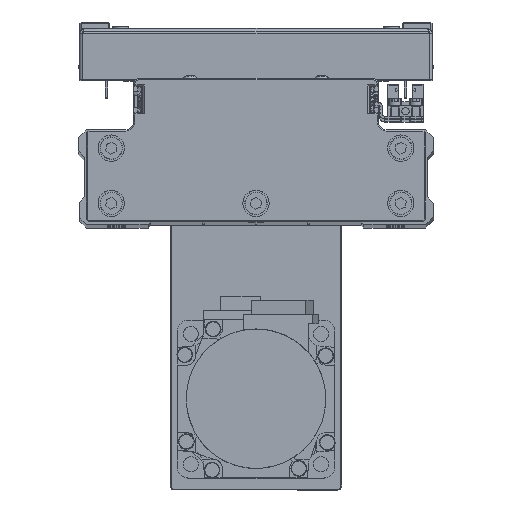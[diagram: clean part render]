
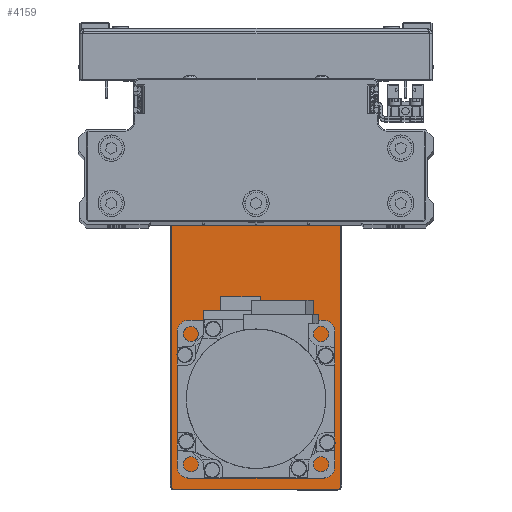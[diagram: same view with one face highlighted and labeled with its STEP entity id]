
A CAD part, top view. The second image highlights one B-rep face of the part: STEP entity #4159.
In plain terms, the highlighted planar face has unit normal (0, 0, 1) as drawn and (0, 1, 0) by its records, which use the part's own axes.
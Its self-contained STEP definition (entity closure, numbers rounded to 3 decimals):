
#203 = AXIS2_PLACEMENT_3D ( 'NONE', #10018, #23656, #37335 ) ;
#590 = FACE_BOUND ( 'NONE', #42842, .T. ) ;
#809 = ORIENTED_EDGE ( 'NONE', *, *, #30863, .T. ) ;
#1268 = CARTESIAN_POINT ( 'NONE',  ( -84.7, 6., 0. ) ) ;
#1620 = AXIS2_PLACEMENT_3D ( 'NONE', #24550, #38217, #7558 ) ;
#1748 = EDGE_LOOP ( 'NONE', ( #25044, #38263 ) ) ;
#1940 = EDGE_CURVE ( 'NONE', #26583, #33421, #26943, .T. ) ;
#3515 = EDGE_CURVE ( 'NONE', #20765, #15574, #15768, .T. ) ;
#3806 = DIRECTION ( 'NONE',  ( -1., 0., 0. ) ) ;
#4159 = ADVANCED_FACE ( 'NONE', ( #17593, #31243, #590, #14210, #27857 ), #41519, .F. ) ;
#4186 = CARTESIAN_POINT ( 'NONE',  ( 52.5, 6., -10.3 ) ) ;
#4367 = CARTESIAN_POINT ( 'NONE',  ( -50.5, 6., -15. ) ) ;
#5638 = DIRECTION ( 'NONE',  ( 0., -1., 0. ) ) ;
#5685 = CARTESIAN_POINT ( 'NONE',  ( 83.5, 6., 32.2 ) ) ;
#7052 = VECTOR ( 'NONE', #34766, 1000. ) ;
#7235 = CARTESIAN_POINT ( 'NONE',  ( 75.992, 6., -8.551 ) ) ;
#7450 = CARTESIAN_POINT ( 'NONE',  ( -50.5, 6., 15. ) ) ;
#7490 = LINE ( 'NONE', #21120, #7052 ) ;
#7558 = DIRECTION ( 'NONE',  ( 0., 0., 1. ) ) ;
#7660 = AXIS2_PLACEMENT_3D ( 'NONE', #25127, #38811, #8158 ) ;
#8004 = DIRECTION ( 'NONE',  ( 0., 0., -1. ) ) ;
#8085 = VERTEX_POINT ( 'NONE', #15971 ) ;
#8158 = DIRECTION ( 'NONE',  ( 0., 0., 1. ) ) ;
#8338 = DIRECTION ( 'NONE',  ( 0., 0., -1. ) ) ;
#8340 = DIRECTION ( 'NONE',  ( 0., 0., 1. ) ) ;
#8342 = ORIENTED_EDGE ( 'NONE', *, *, #42377, .T. ) ;
#8436 = CARTESIAN_POINT ( 'NONE',  ( 61.051, 6., 21.967 ) ) ;
#9050 = EDGE_CURVE ( 'NONE', #39495, #41963, #19495, .T. ) ;
#9067 = DIRECTION ( 'NONE',  ( 0., 0., 1. ) ) ;
#9975 = CARTESIAN_POINT ( 'NONE',  ( -83.5, 6., 31. ) ) ;
#10018 = CARTESIAN_POINT ( 'NONE',  ( -50.5, 6., 0. ) ) ;
#10165 = VECTOR ( 'NONE', #14906, 1000. ) ;
#10871 = CARTESIAN_POINT ( 'NONE',  ( 0., 6., 0. ) ) ;
#11038 = DIRECTION ( 'NONE',  ( 0., 0., -1. ) ) ;
#11071 = CARTESIAN_POINT ( 'NONE',  ( 83.5, 6., -31. ) ) ;
#11317 = ORIENTED_EDGE ( 'NONE', *, *, #32674, .F. ) ;
#11723 = CARTESIAN_POINT ( 'NONE',  ( 0., 6., 32.2 ) ) ;
#12030 = VERTEX_POINT ( 'NONE', #34632 ) ;
#12055 = ORIENTED_EDGE ( 'NONE', *, *, #37808, .T. ) ;
#14210 = FACE_OUTER_BOUND ( 'NONE', #18404, .T. ) ;
#14321 = AXIS2_PLACEMENT_3D ( 'NONE', #25322, #38993, #8338 ) ;
#14906 = DIRECTION ( 'NONE',  ( 0., 0., 1. ) ) ;
#14986 = VERTEX_POINT ( 'NONE', #31381 ) ;
#15088 = AXIS2_PLACEMENT_3D ( 'NONE', #10871, #24509, #38189 ) ;
#15148 = ORIENTED_EDGE ( 'NONE', *, *, #3515, .F. ) ;
#15214 = CARTESIAN_POINT ( 'NONE',  ( 75.992, 6., -7.026 ) ) ;
#15574 = VERTEX_POINT ( 'NONE', #15214 ) ;
#15768 = CIRCLE ( 'NONE', #40787, 1.525 ) ;
#15971 = CARTESIAN_POINT ( 'NONE',  ( -83.5, 6., -32.2 ) ) ;
#16020 = EDGE_CURVE ( 'NONE', #33421, #26583, #18179, .T. ) ;
#16150 = EDGE_LOOP ( 'NONE', ( #11317, #15148 ) ) ;
#16496 = EDGE_CURVE ( 'NONE', #30525, #25093, #41068, .T. ) ;
#17593 = FACE_BOUND ( 'NONE', #1748, .T. ) ;
#17741 = CARTESIAN_POINT ( 'NONE',  ( -83.5, 6., -31. ) ) ;
#17918 = ORIENTED_EDGE ( 'NONE', *, *, #37869, .T. ) ;
#18179 = CIRCLE ( 'NONE', #43186, 1.525 ) ;
#18404 = EDGE_LOOP ( 'NONE', ( #12055, #27605, #8342, #38157, #809, #17918, #24952, #38240 ) ) ;
#18763 = AXIS2_PLACEMENT_3D ( 'NONE', #9975, #23605, #37281 ) ;
#19285 = DIRECTION ( 'NONE',  ( 0., 0., -1. ) ) ;
#19495 = CIRCLE ( 'NONE', #203, 15. ) ;
#20271 = CARTESIAN_POINT ( 'NONE',  ( -84.7, 6., -31. ) ) ;
#20765 = VERTEX_POINT ( 'NONE', #21949 ) ;
#20798 = LINE ( 'NONE', #34445, #29411 ) ;
#20872 = DIRECTION ( 'NONE',  ( 0., 1., 0. ) ) ;
#20906 = CIRCLE ( 'NONE', #1620, 15. ) ;
#21120 = CARTESIAN_POINT ( 'NONE',  ( 84.7, 6., 0. ) ) ;
#21232 = AXIS2_PLACEMENT_3D ( 'NONE', #24980, #38651, #8004 ) ;
#21641 = CARTESIAN_POINT ( 'NONE',  ( 61.051, 6., 25.017 ) ) ;
#21775 = AXIS2_PLACEMENT_3D ( 'NONE', #36292, #5638, #19285 ) ;
#21868 = ORIENTED_EDGE ( 'NONE', *, *, #16496, .T. ) ;
#21949 = CARTESIAN_POINT ( 'NONE',  ( 75.992, 6., -10.076 ) ) ;
#22111 = AXIS2_PLACEMENT_3D ( 'NONE', #11071, #24701, #38375 ) ;
#23605 = DIRECTION ( 'NONE',  ( 0., 1., 0. ) ) ;
#23656 = DIRECTION ( 'NONE',  ( 0., 1., 0. ) ) ;
#23851 = VERTEX_POINT ( 'NONE', #20271 ) ;
#24047 = AXIS2_PLACEMENT_3D ( 'NONE', #25325, #38999, #8340 ) ;
#24509 = DIRECTION ( 'NONE',  ( 0., -1., 0. ) ) ;
#24550 = CARTESIAN_POINT ( 'NONE',  ( -50.5, 6., 0. ) ) ;
#24701 = DIRECTION ( 'NONE',  ( 0., 1., 0. ) ) ;
#24841 = VERTEX_POINT ( 'NONE', #39758 ) ;
#24952 = ORIENTED_EDGE ( 'NONE', *, *, #33418, .T. ) ;
#24980 = CARTESIAN_POINT ( 'NONE',  ( 83.5, 6., 31. ) ) ;
#25044 = ORIENTED_EDGE ( 'NONE', *, *, #16020, .F. ) ;
#25093 = VERTEX_POINT ( 'NONE', #40249 ) ;
#25121 = VERTEX_POINT ( 'NONE', #30171 ) ;
#25127 = CARTESIAN_POINT ( 'NONE',  ( 61.051, 6., 23.492 ) ) ;
#25148 = AXIS2_PLACEMENT_3D ( 'NONE', #17741, #41691, #11038 ) ;
#25322 = CARTESIAN_POINT ( 'NONE',  ( 52.5, 6., 0. ) ) ;
#25325 = CARTESIAN_POINT ( 'NONE',  ( 75.992, 6., -8.551 ) ) ;
#25360 = DIRECTION ( 'NONE',  ( 1., 0., 0. ) ) ;
#25682 = VECTOR ( 'NONE', #25360, 1000. ) ;
#26053 = CARTESIAN_POINT ( 'NONE',  ( 61.051, 6., 23.492 ) ) ;
#26583 = VERTEX_POINT ( 'NONE', #8436 ) ;
#26931 = CARTESIAN_POINT ( 'NONE',  ( 84.7, 6., 31. ) ) ;
#26943 = CIRCLE ( 'NONE', #7660, 1.525 ) ;
#27605 = ORIENTED_EDGE ( 'NONE', *, *, #30060, .T. ) ;
#27704 = EDGE_CURVE ( 'NONE', #41963, #39495, #20906, .T. ) ;
#27857 = FACE_BOUND ( 'NONE', #36205, .T. ) ;
#28723 = ORIENTED_EDGE ( 'NONE', *, *, #40742, .T. ) ;
#29411 = VECTOR ( 'NONE', #3806, 1000. ) ;
#30060 = EDGE_CURVE ( 'NONE', #25121, #8085, #20798, .T. ) ;
#30171 = CARTESIAN_POINT ( 'NONE',  ( 83.5, 6., -32.2 ) ) ;
#30525 = VERTEX_POINT ( 'NONE', #4186 ) ;
#30617 = EDGE_CURVE ( 'NONE', #23851, #12030, #31935, .T. ) ;
#30863 = EDGE_CURVE ( 'NONE', #12030, #24841, #38053, .T. ) ;
#31042 = ORIENTED_EDGE ( 'NONE', *, *, #9050, .F. ) ;
#31243 = FACE_BOUND ( 'NONE', #16150, .T. ) ;
#31381 = CARTESIAN_POINT ( 'NONE',  ( 84.7, 6., -31. ) ) ;
#31935 = LINE ( 'NONE', #1268, #10165 ) ;
#32172 = ORIENTED_EDGE ( 'NONE', *, *, #27704, .F. ) ;
#32674 = EDGE_CURVE ( 'NONE', #15574, #20765, #43352, .T. ) ;
#33418 = EDGE_CURVE ( 'NONE', #35142, #34106, #40554, .T. ) ;
#33421 = VERTEX_POINT ( 'NONE', #21641 ) ;
#33623 = CIRCLE ( 'NONE', #14321, 10.3 ) ;
#34106 = VERTEX_POINT ( 'NONE', #26931 ) ;
#34445 = CARTESIAN_POINT ( 'NONE',  ( 0., 6., -32.2 ) ) ;
#34524 = DIRECTION ( 'NONE',  ( 0., 0., 1. ) ) ;
#34632 = CARTESIAN_POINT ( 'NONE',  ( -84.7, 6., 31. ) ) ;
#34766 = DIRECTION ( 'NONE',  ( 0., 0., -1. ) ) ;
#35142 = VERTEX_POINT ( 'NONE', #5685 ) ;
#36205 = EDGE_LOOP ( 'NONE', ( #31042, #32172 ) ) ;
#36292 = CARTESIAN_POINT ( 'NONE',  ( 52.5, 6., 0. ) ) ;
#36701 = EDGE_CURVE ( 'NONE', #34106, #14986, #7490, .T. ) ;
#37281 = DIRECTION ( 'NONE',  ( 0., 0., -1. ) ) ;
#37335 = DIRECTION ( 'NONE',  ( 0., 0., 1. ) ) ;
#37808 = EDGE_CURVE ( 'NONE', #14986, #25121, #41412, .T. ) ;
#37869 = EDGE_CURVE ( 'NONE', #24841, #35142, #42375, .T. ) ;
#38053 = CIRCLE ( 'NONE', #18763, 1.2 ) ;
#38157 = ORIENTED_EDGE ( 'NONE', *, *, #30617, .T. ) ;
#38189 = DIRECTION ( 'NONE',  ( 0., 0., -1. ) ) ;
#38217 = DIRECTION ( 'NONE',  ( 0., 1., 0. ) ) ;
#38240 = ORIENTED_EDGE ( 'NONE', *, *, #36701, .T. ) ;
#38263 = ORIENTED_EDGE ( 'NONE', *, *, #1940, .F. ) ;
#38375 = DIRECTION ( 'NONE',  ( 0., 0., -1. ) ) ;
#38651 = DIRECTION ( 'NONE',  ( 0., 1., 0. ) ) ;
#38754 = CIRCLE ( 'NONE', #25148, 1.2 ) ;
#38811 = DIRECTION ( 'NONE',  ( 0., 1., 0. ) ) ;
#38993 = DIRECTION ( 'NONE',  ( 0., -1., 0. ) ) ;
#38999 = DIRECTION ( 'NONE',  ( 0., 1., 0. ) ) ;
#39495 = VERTEX_POINT ( 'NONE', #7450 ) ;
#39716 = DIRECTION ( 'NONE',  ( 0., 1., 0. ) ) ;
#39758 = CARTESIAN_POINT ( 'NONE',  ( -83.5, 6., 32.2 ) ) ;
#40249 = CARTESIAN_POINT ( 'NONE',  ( 52.5, 6., 10.3 ) ) ;
#40554 = CIRCLE ( 'NONE', #21232, 1.2 ) ;
#40742 = EDGE_CURVE ( 'NONE', #25093, #30525, #33623, .T. ) ;
#40787 = AXIS2_PLACEMENT_3D ( 'NONE', #7235, #20872, #34524 ) ;
#41068 = CIRCLE ( 'NONE', #21775, 10.3 ) ;
#41412 = CIRCLE ( 'NONE', #22111, 1.2 ) ;
#41519 = PLANE ( 'NONE',  #15088 ) ;
#41691 = DIRECTION ( 'NONE',  ( 0., 1., 0. ) ) ;
#41963 = VERTEX_POINT ( 'NONE', #4367 ) ;
#42375 = LINE ( 'NONE', #11723, #25682 ) ;
#42377 = EDGE_CURVE ( 'NONE', #8085, #23851, #38754, .T. ) ;
#42842 = EDGE_LOOP ( 'NONE', ( #28723, #21868 ) ) ;
#43186 = AXIS2_PLACEMENT_3D ( 'NONE', #26053, #39716, #9067 ) ;
#43352 = CIRCLE ( 'NONE', #24047, 1.525 ) ;
